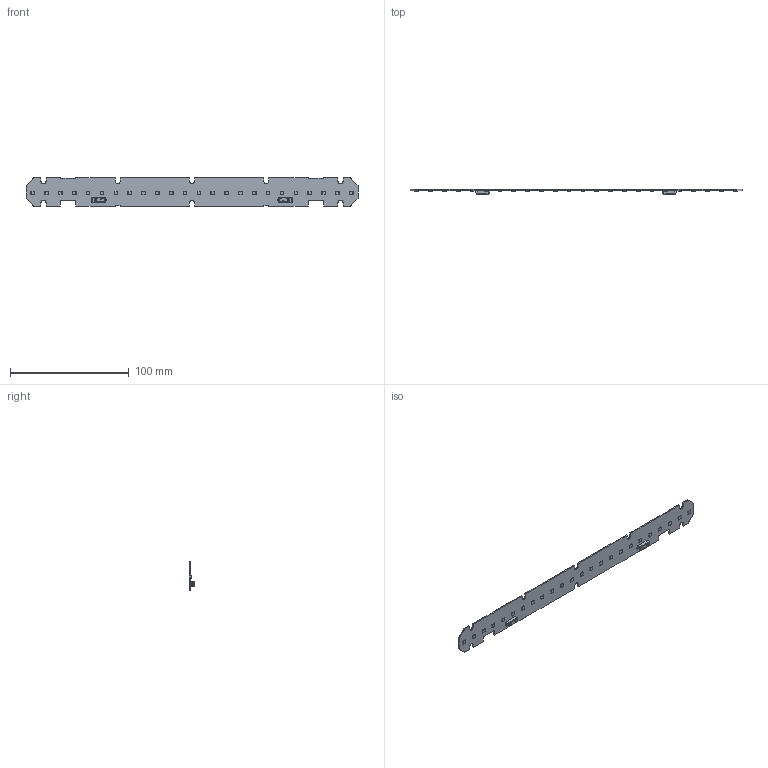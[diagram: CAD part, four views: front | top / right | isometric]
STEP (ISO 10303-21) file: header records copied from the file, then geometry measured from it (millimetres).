
FILE_DESCRIPTION(/* description */ ('Unknown'),/* implementation_level */ '2;1');
FILE_NAME(/* name */ 'LinLED 280x24mm 1100lm 2C 24V LINNEA-GC2 sh-000 2022-01-18',/* time_stamp */ '2022-01-18T12:48:19+01:00',/* author */ ('Unknown'),/* organization */ ('Unknown'),/* preprocessor_version */ 'ST-DEVELOPER v16.7',/* originating_system */ 'Solid Edge',/* authorisation */ 'Unknown');
FILE_SCHEMA (('AUTOMOTIVE_DESIGN {1 0 10303 214 3 1 1}'));
Length unit declared in the file: millimetre
Products named in the file (1): LinLED 280x24mm 1100lm 2C 24V LINNEA-GC2 sh-000 2022-01-18
Bounding box: 279.5 x 4.5 x 23.8 mm (x, y, z)
Volume: 6652 mm3; surface area: 13858.2 mm2
Topology: 3 solids, 3 shells, 958 faces, 2506 edges, 1602 vertices
Faces by surface type: plane 648, cylinder 150, bspline 104, cone 30, sphere 16, torus 10
Entity records: 35207 total; most frequent: CARTESIAN_POINT 9321, ORIENTED_EDGE 4964, DIRECTION 4092, EDGE_CURVE 2482, LINE 1826, VECTOR 1826, VERTEX_POINT 1596, AXIS2_PLACEMENT_3D 1133
